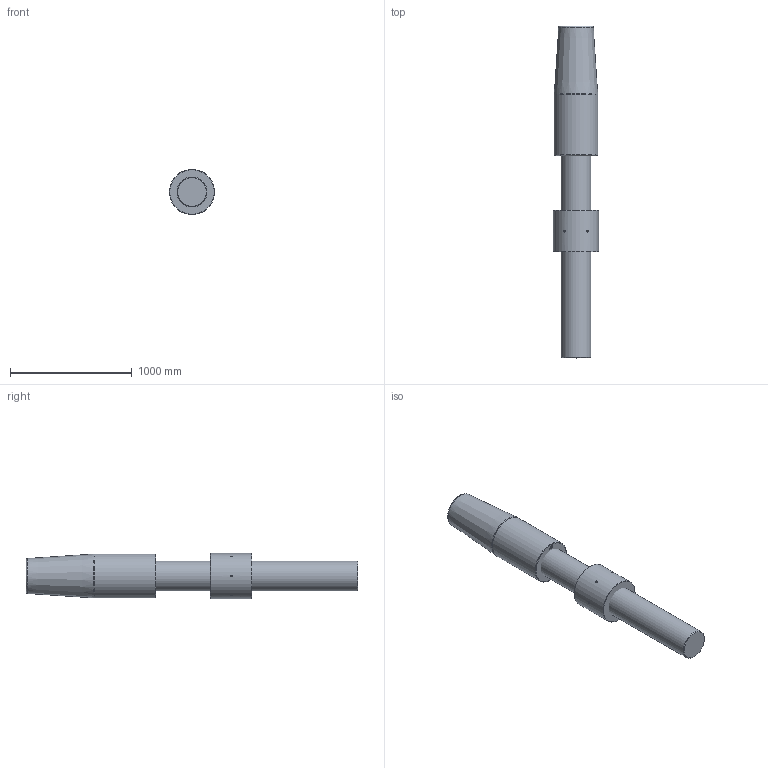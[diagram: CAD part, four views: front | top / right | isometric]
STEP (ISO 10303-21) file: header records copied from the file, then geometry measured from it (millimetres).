
FILE_DESCRIPTION(/* description */ (''),/* implementation_level */ '2;1');
FILE_NAME(/* name */ 'C:\Users\ranca\Desktop\CYM\ARRANGEMENT\CYM124 52 061 0.stp',/* time_stamp */ '2021-04-23T21:00:16+02:00',/* author */ ('ranca'),/* organization */ (''),/* preprocessor_version */ 'ST-DEVELOPER v16.13',/* originating_system */ 'Autodesk Inventor 2018',/* authorisation */ '');
FILE_SCHEMA (('AUTOMOTIVE_DESIGN { 1 0 10303 214 3 1 1 }'));
Length unit declared in the file: millimetre
Products named in the file (4): CYM124-52-061-0; CYM012-52-061-0_ROD; CYC124 52 065 0_CYL SOK_RH; CYM124-41-051-0
Assembly tree (3 placements, depth 2):
  CYM124-52-061-0
    CYM012-52-061-0_ROD
    CYC124 52 065 0_CYL SOK_RH
    CYM124-41-051-0
Bounding box: 370 x 2723 x 370 mm (x, y, z)
Volume: 228105654 mm3; surface area: 3539965.2 mm2
Topology: 3 solids, 3 shells, 508 faces, 1372 edges, 912 vertices
Faces by surface type: plane 274, bspline 212, cone 11, cylinder 9, torus 2
Full cylindrical faces by diameter (mm): 15 x6, 245 x1, 360 x1, 370 x1
Entity records: 17059 total; most frequent: CARTESIAN_POINT 5745, ORIENTED_EDGE 2686, DIRECTION 1536, EDGE_CURVE 1343, VERTEX_POINT 906, LINE 886, VECTOR 886, EDGE_LOOP 573
